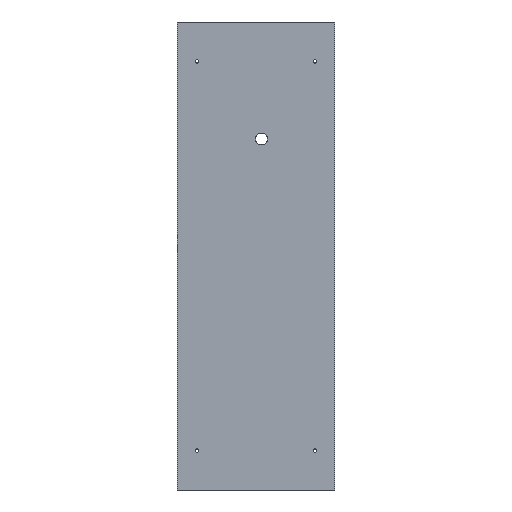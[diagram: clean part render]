
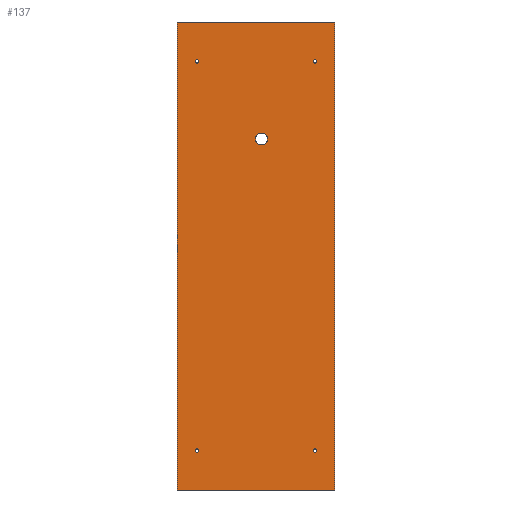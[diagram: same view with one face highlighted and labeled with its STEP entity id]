
A CAD part, front view. The second image highlights one B-rep face of the part: STEP entity #137.
In plain terms, the highlighted planar face has unit normal (0, -1, 0).
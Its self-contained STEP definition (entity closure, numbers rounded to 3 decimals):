
#21 = EDGE_CURVE('',#22,#24,#26,.T.);
#22 = VERTEX_POINT('',#23);
#23 = CARTESIAN_POINT('',(-100.,-52.,12.));
#24 = VERTEX_POINT('',#25);
#25 = CARTESIAN_POINT('',(-100.,-52.,606.));
#26 = SURFACE_CURVE('',#27,(#31,#43),.PCURVE_S1.);
#27 = LINE('',#28,#29);
#28 = CARTESIAN_POINT('',(-100.,-52.,12.));
#29 = VECTOR('',#30,1.);
#30 = DIRECTION('',(0.,0.,1.));
#31 = PCURVE('',#32,#37);
#32 = PLANE('',#33);
#33 = AXIS2_PLACEMENT_3D('',#34,#35,#36);
#34 = CARTESIAN_POINT('',(-100.,-52.,12.));
#35 = DIRECTION('',(1.,0.,0.));
#36 = DIRECTION('',(0.,0.,1.));
#37 = DEFINITIONAL_REPRESENTATION('',(#38),#42);
#38 = LINE('',#39,#40);
#39 = CARTESIAN_POINT('',(0.,0.));
#40 = VECTOR('',#41,1.);
#41 = DIRECTION('',(1.,0.));
#42 = ( GEOMETRIC_REPRESENTATION_CONTEXT(2) 
PARAMETRIC_REPRESENTATION_CONTEXT() REPRESENTATION_CONTEXT('2D SPACE',''
  ) );
#43 = PCURVE('',#44,#49);
#44 = PLANE('',#45);
#45 = AXIS2_PLACEMENT_3D('',#46,#47,#48);
#46 = CARTESIAN_POINT('',(-100.,-52.,12.));
#47 = DIRECTION('',(0.,1.,0.));
#48 = DIRECTION('',(0.,0.,1.));
#49 = DEFINITIONAL_REPRESENTATION('',(#50),#54);
#50 = LINE('',#51,#52);
#51 = CARTESIAN_POINT('',(0.,0.));
#52 = VECTOR('',#53,1.);
#53 = DIRECTION('',(1.,0.));
#54 = ( GEOMETRIC_REPRESENTATION_CONTEXT(2) 
PARAMETRIC_REPRESENTATION_CONTEXT() REPRESENTATION_CONTEXT('2D SPACE',''
  ) );
#72 = PLANE('',#73);
#73 = AXIS2_PLACEMENT_3D('',#74,#75,#76);
#74 = CARTESIAN_POINT('',(-100.,-52.,12.));
#75 = DIRECTION('',(0.,0.,1.));
#76 = DIRECTION('',(1.,0.,0.));
#126 = PLANE('',#127);
#127 = AXIS2_PLACEMENT_3D('',#128,#129,#130);
#128 = CARTESIAN_POINT('',(-100.,-52.,606.));
#129 = DIRECTION('',(0.,0.,1.));
#130 = DIRECTION('',(1.,0.,0.));
#137 = ADVANCED_FACE('',(#138,#213,#244,#275,#306,#337),#44,.F.);
#138 = FACE_BOUND('',#139,.F.);
#139 = EDGE_LOOP('',(#140,#163,#164,#187));
#140 = ORIENTED_EDGE('',*,*,#141,.F.);
#141 = EDGE_CURVE('',#22,#142,#144,.T.);
#142 = VERTEX_POINT('',#143);
#143 = CARTESIAN_POINT('',(100.,-52.,12.));
#144 = SURFACE_CURVE('',#145,(#149,#156),.PCURVE_S1.);
#145 = LINE('',#146,#147);
#146 = CARTESIAN_POINT('',(-100.,-52.,12.));
#147 = VECTOR('',#148,1.);
#148 = DIRECTION('',(1.,0.,0.));
#149 = PCURVE('',#44,#150);
#150 = DEFINITIONAL_REPRESENTATION('',(#151),#155);
#151 = LINE('',#152,#153);
#152 = CARTESIAN_POINT('',(0.,0.));
#153 = VECTOR('',#154,1.);
#154 = DIRECTION('',(0.,1.));
#155 = ( GEOMETRIC_REPRESENTATION_CONTEXT(2) 
PARAMETRIC_REPRESENTATION_CONTEXT() REPRESENTATION_CONTEXT('2D SPACE',''
  ) );
#156 = PCURVE('',#72,#157);
#157 = DEFINITIONAL_REPRESENTATION('',(#158),#162);
#158 = LINE('',#159,#160);
#159 = CARTESIAN_POINT('',(0.,0.));
#160 = VECTOR('',#161,1.);
#161 = DIRECTION('',(1.,0.));
#162 = ( GEOMETRIC_REPRESENTATION_CONTEXT(2) 
PARAMETRIC_REPRESENTATION_CONTEXT() REPRESENTATION_CONTEXT('2D SPACE',''
  ) );
#163 = ORIENTED_EDGE('',*,*,#21,.T.);
#164 = ORIENTED_EDGE('',*,*,#165,.T.);
#165 = EDGE_CURVE('',#24,#166,#168,.T.);
#166 = VERTEX_POINT('',#167);
#167 = CARTESIAN_POINT('',(100.,-52.,606.));
#168 = SURFACE_CURVE('',#169,(#173,#180),.PCURVE_S1.);
#169 = LINE('',#170,#171);
#170 = CARTESIAN_POINT('',(-100.,-52.,606.));
#171 = VECTOR('',#172,1.);
#172 = DIRECTION('',(1.,0.,0.));
#173 = PCURVE('',#44,#174);
#174 = DEFINITIONAL_REPRESENTATION('',(#175),#179);
#175 = LINE('',#176,#177);
#176 = CARTESIAN_POINT('',(594.,0.));
#177 = VECTOR('',#178,1.);
#178 = DIRECTION('',(0.,1.));
#179 = ( GEOMETRIC_REPRESENTATION_CONTEXT(2) 
PARAMETRIC_REPRESENTATION_CONTEXT() REPRESENTATION_CONTEXT('2D SPACE',''
  ) );
#180 = PCURVE('',#126,#181);
#181 = DEFINITIONAL_REPRESENTATION('',(#182),#186);
#182 = LINE('',#183,#184);
#183 = CARTESIAN_POINT('',(0.,0.));
#184 = VECTOR('',#185,1.);
#185 = DIRECTION('',(1.,0.));
#186 = ( GEOMETRIC_REPRESENTATION_CONTEXT(2) 
PARAMETRIC_REPRESENTATION_CONTEXT() REPRESENTATION_CONTEXT('2D SPACE',''
  ) );
#187 = ORIENTED_EDGE('',*,*,#188,.F.);
#188 = EDGE_CURVE('',#142,#166,#189,.T.);
#189 = SURFACE_CURVE('',#190,(#194,#201),.PCURVE_S1.);
#190 = LINE('',#191,#192);
#191 = CARTESIAN_POINT('',(100.,-52.,12.));
#192 = VECTOR('',#193,1.);
#193 = DIRECTION('',(0.,0.,1.));
#194 = PCURVE('',#44,#195);
#195 = DEFINITIONAL_REPRESENTATION('',(#196),#200);
#196 = LINE('',#197,#198);
#197 = CARTESIAN_POINT('',(0.,200.));
#198 = VECTOR('',#199,1.);
#199 = DIRECTION('',(1.,0.));
#200 = ( GEOMETRIC_REPRESENTATION_CONTEXT(2) 
PARAMETRIC_REPRESENTATION_CONTEXT() REPRESENTATION_CONTEXT('2D SPACE',''
  ) );
#201 = PCURVE('',#202,#207);
#202 = PLANE('',#203);
#203 = AXIS2_PLACEMENT_3D('',#204,#205,#206);
#204 = CARTESIAN_POINT('',(100.,-52.,12.));
#205 = DIRECTION('',(1.,0.,0.));
#206 = DIRECTION('',(0.,0.,1.));
#207 = DEFINITIONAL_REPRESENTATION('',(#208),#212);
#208 = LINE('',#209,#210);
#209 = CARTESIAN_POINT('',(0.,0.));
#210 = VECTOR('',#211,1.);
#211 = DIRECTION('',(1.,0.));
#212 = ( GEOMETRIC_REPRESENTATION_CONTEXT(2) 
PARAMETRIC_REPRESENTATION_CONTEXT() REPRESENTATION_CONTEXT('2D SPACE',''
  ) );
#213 = FACE_BOUND('',#214,.F.);
#214 = EDGE_LOOP('',(#215));
#215 = ORIENTED_EDGE('',*,*,#216,.F.);
#216 = EDGE_CURVE('',#217,#217,#219,.T.);
#217 = VERTEX_POINT('',#218);
#218 = CARTESIAN_POINT('',(-75.,-52.,64.25));
#219 = SURFACE_CURVE('',#220,(#225,#232),.PCURVE_S1.);
#220 = CIRCLE('',#221,2.25);
#221 = AXIS2_PLACEMENT_3D('',#222,#223,#224);
#222 = CARTESIAN_POINT('',(-75.,-52.,62.));
#223 = DIRECTION('',(0.,1.,0.));
#224 = DIRECTION('',(0.,-0.,1.));
#225 = PCURVE('',#44,#226);
#226 = DEFINITIONAL_REPRESENTATION('',(#227),#231);
#227 = CIRCLE('',#228,2.25);
#228 = AXIS2_PLACEMENT_2D('',#229,#230);
#229 = CARTESIAN_POINT('',(50.,25.));
#230 = DIRECTION('',(1.,0.));
#231 = ( GEOMETRIC_REPRESENTATION_CONTEXT(2) 
PARAMETRIC_REPRESENTATION_CONTEXT() REPRESENTATION_CONTEXT('2D SPACE',''
  ) );
#232 = PCURVE('',#233,#238);
#233 = CYLINDRICAL_SURFACE('',#234,2.25);
#234 = AXIS2_PLACEMENT_3D('',#235,#236,#237);
#235 = CARTESIAN_POINT('',(-75.,-52.,62.));
#236 = DIRECTION('',(0.,1.,0.));
#237 = DIRECTION('',(0.,-0.,1.));
#238 = DEFINITIONAL_REPRESENTATION('',(#239),#243);
#239 = LINE('',#240,#241);
#240 = CARTESIAN_POINT('',(0.,0.));
#241 = VECTOR('',#242,1.);
#242 = DIRECTION('',(1.,0.));
#243 = ( GEOMETRIC_REPRESENTATION_CONTEXT(2) 
PARAMETRIC_REPRESENTATION_CONTEXT() REPRESENTATION_CONTEXT('2D SPACE',''
  ) );
#244 = FACE_BOUND('',#245,.F.);
#245 = EDGE_LOOP('',(#246));
#246 = ORIENTED_EDGE('',*,*,#247,.F.);
#247 = EDGE_CURVE('',#248,#248,#250,.T.);
#248 = VERTEX_POINT('',#249);
#249 = CARTESIAN_POINT('',(-75.,-52.,558.25));
#250 = SURFACE_CURVE('',#251,(#256,#263),.PCURVE_S1.);
#251 = CIRCLE('',#252,2.25);
#252 = AXIS2_PLACEMENT_3D('',#253,#254,#255);
#253 = CARTESIAN_POINT('',(-75.,-52.,556.));
#254 = DIRECTION('',(0.,1.,0.));
#255 = DIRECTION('',(0.,-0.,1.));
#256 = PCURVE('',#44,#257);
#257 = DEFINITIONAL_REPRESENTATION('',(#258),#262);
#258 = CIRCLE('',#259,2.25);
#259 = AXIS2_PLACEMENT_2D('',#260,#261);
#260 = CARTESIAN_POINT('',(544.,25.));
#261 = DIRECTION('',(1.,0.));
#262 = ( GEOMETRIC_REPRESENTATION_CONTEXT(2) 
PARAMETRIC_REPRESENTATION_CONTEXT() REPRESENTATION_CONTEXT('2D SPACE',''
  ) );
#263 = PCURVE('',#264,#269);
#264 = CYLINDRICAL_SURFACE('',#265,2.25);
#265 = AXIS2_PLACEMENT_3D('',#266,#267,#268);
#266 = CARTESIAN_POINT('',(-75.,-52.,556.));
#267 = DIRECTION('',(0.,1.,0.));
#268 = DIRECTION('',(0.,-0.,1.));
#269 = DEFINITIONAL_REPRESENTATION('',(#270),#274);
#270 = LINE('',#271,#272);
#271 = CARTESIAN_POINT('',(0.,0.));
#272 = VECTOR('',#273,1.);
#273 = DIRECTION('',(1.,0.));
#274 = ( GEOMETRIC_REPRESENTATION_CONTEXT(2) 
PARAMETRIC_REPRESENTATION_CONTEXT() REPRESENTATION_CONTEXT('2D SPACE',''
  ) );
#275 = FACE_BOUND('',#276,.F.);
#276 = EDGE_LOOP('',(#277));
#277 = ORIENTED_EDGE('',*,*,#278,.F.);
#278 = EDGE_CURVE('',#279,#279,#281,.T.);
#279 = VERTEX_POINT('',#280);
#280 = CARTESIAN_POINT('',(75.,-52.,64.25));
#281 = SURFACE_CURVE('',#282,(#287,#294),.PCURVE_S1.);
#282 = CIRCLE('',#283,2.25);
#283 = AXIS2_PLACEMENT_3D('',#284,#285,#286);
#284 = CARTESIAN_POINT('',(75.,-52.,62.));
#285 = DIRECTION('',(0.,1.,0.));
#286 = DIRECTION('',(0.,-0.,1.));
#287 = PCURVE('',#44,#288);
#288 = DEFINITIONAL_REPRESENTATION('',(#289),#293);
#289 = CIRCLE('',#290,2.25);
#290 = AXIS2_PLACEMENT_2D('',#291,#292);
#291 = CARTESIAN_POINT('',(50.,175.));
#292 = DIRECTION('',(1.,0.));
#293 = ( GEOMETRIC_REPRESENTATION_CONTEXT(2) 
PARAMETRIC_REPRESENTATION_CONTEXT() REPRESENTATION_CONTEXT('2D SPACE',''
  ) );
#294 = PCURVE('',#295,#300);
#295 = CYLINDRICAL_SURFACE('',#296,2.25);
#296 = AXIS2_PLACEMENT_3D('',#297,#298,#299);
#297 = CARTESIAN_POINT('',(75.,-52.,62.));
#298 = DIRECTION('',(0.,1.,0.));
#299 = DIRECTION('',(0.,-0.,1.));
#300 = DEFINITIONAL_REPRESENTATION('',(#301),#305);
#301 = LINE('',#302,#303);
#302 = CARTESIAN_POINT('',(0.,0.));
#303 = VECTOR('',#304,1.);
#304 = DIRECTION('',(1.,0.));
#305 = ( GEOMETRIC_REPRESENTATION_CONTEXT(2) 
PARAMETRIC_REPRESENTATION_CONTEXT() REPRESENTATION_CONTEXT('2D SPACE',''
  ) );
#306 = FACE_BOUND('',#307,.F.);
#307 = EDGE_LOOP('',(#308));
#308 = ORIENTED_EDGE('',*,*,#309,.F.);
#309 = EDGE_CURVE('',#310,#310,#312,.T.);
#310 = VERTEX_POINT('',#311);
#311 = CARTESIAN_POINT('',(7.,-52.,465.));
#312 = SURFACE_CURVE('',#313,(#318,#325),.PCURVE_S1.);
#313 = CIRCLE('',#314,7.5);
#314 = AXIS2_PLACEMENT_3D('',#315,#316,#317);
#315 = CARTESIAN_POINT('',(7.,-52.,457.5));
#316 = DIRECTION('',(0.,1.,0.));
#317 = DIRECTION('',(0.,-0.,1.));
#318 = PCURVE('',#44,#319);
#319 = DEFINITIONAL_REPRESENTATION('',(#320),#324);
#320 = CIRCLE('',#321,7.5);
#321 = AXIS2_PLACEMENT_2D('',#322,#323);
#322 = CARTESIAN_POINT('',(445.5,107.));
#323 = DIRECTION('',(1.,0.));
#324 = ( GEOMETRIC_REPRESENTATION_CONTEXT(2) 
PARAMETRIC_REPRESENTATION_CONTEXT() REPRESENTATION_CONTEXT('2D SPACE',''
  ) );
#325 = PCURVE('',#326,#331);
#326 = CYLINDRICAL_SURFACE('',#327,7.5);
#327 = AXIS2_PLACEMENT_3D('',#328,#329,#330);
#328 = CARTESIAN_POINT('',(7.,-52.,457.5));
#329 = DIRECTION('',(0.,1.,0.));
#330 = DIRECTION('',(0.,-0.,1.));
#331 = DEFINITIONAL_REPRESENTATION('',(#332),#336);
#332 = LINE('',#333,#334);
#333 = CARTESIAN_POINT('',(0.,0.));
#334 = VECTOR('',#335,1.);
#335 = DIRECTION('',(1.,0.));
#336 = ( GEOMETRIC_REPRESENTATION_CONTEXT(2) 
PARAMETRIC_REPRESENTATION_CONTEXT() REPRESENTATION_CONTEXT('2D SPACE',''
  ) );
#337 = FACE_BOUND('',#338,.F.);
#338 = EDGE_LOOP('',(#339));
#339 = ORIENTED_EDGE('',*,*,#340,.F.);
#340 = EDGE_CURVE('',#341,#341,#343,.T.);
#341 = VERTEX_POINT('',#342);
#342 = CARTESIAN_POINT('',(75.,-52.,558.25));
#343 = SURFACE_CURVE('',#344,(#349,#356),.PCURVE_S1.);
#344 = CIRCLE('',#345,2.25);
#345 = AXIS2_PLACEMENT_3D('',#346,#347,#348);
#346 = CARTESIAN_POINT('',(75.,-52.,556.));
#347 = DIRECTION('',(0.,1.,0.));
#348 = DIRECTION('',(0.,-0.,1.));
#349 = PCURVE('',#44,#350);
#350 = DEFINITIONAL_REPRESENTATION('',(#351),#355);
#351 = CIRCLE('',#352,2.25);
#352 = AXIS2_PLACEMENT_2D('',#353,#354);
#353 = CARTESIAN_POINT('',(544.,175.));
#354 = DIRECTION('',(1.,0.));
#355 = ( GEOMETRIC_REPRESENTATION_CONTEXT(2) 
PARAMETRIC_REPRESENTATION_CONTEXT() REPRESENTATION_CONTEXT('2D SPACE',''
  ) );
#356 = PCURVE('',#357,#362);
#357 = CYLINDRICAL_SURFACE('',#358,2.25);
#358 = AXIS2_PLACEMENT_3D('',#359,#360,#361);
#359 = CARTESIAN_POINT('',(75.,-52.,556.));
#360 = DIRECTION('',(0.,1.,0.));
#361 = DIRECTION('',(0.,-0.,1.));
#362 = DEFINITIONAL_REPRESENTATION('',(#363),#367);
#363 = LINE('',#364,#365);
#364 = CARTESIAN_POINT('',(0.,0.));
#365 = VECTOR('',#366,1.);
#366 = DIRECTION('',(1.,0.));
#367 = ( GEOMETRIC_REPRESENTATION_CONTEXT(2) 
PARAMETRIC_REPRESENTATION_CONTEXT() REPRESENTATION_CONTEXT('2D SPACE',''
  ) );
